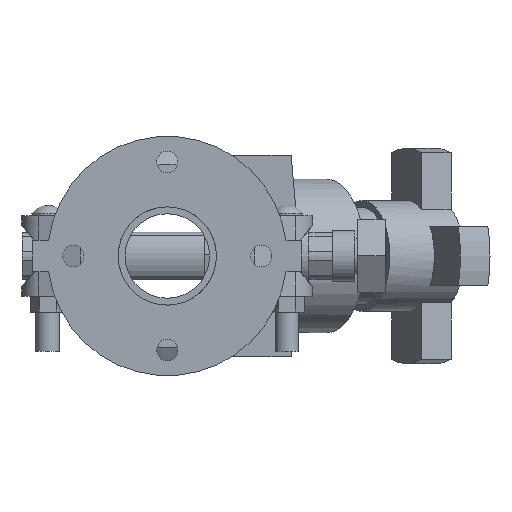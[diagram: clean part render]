
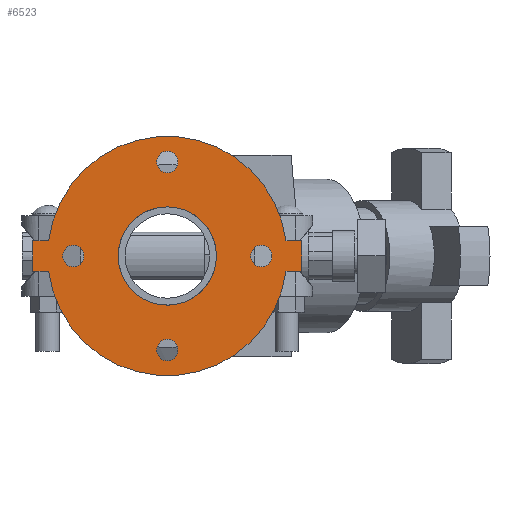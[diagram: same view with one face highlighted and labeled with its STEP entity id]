
A CAD part, front view. The second image highlights one B-rep face of the part: STEP entity #6523.
In plain terms, the highlighted planar face has unit normal (0, -1, 0) as drawn and (0, 0, 1) by its records, which use the part's own axes.
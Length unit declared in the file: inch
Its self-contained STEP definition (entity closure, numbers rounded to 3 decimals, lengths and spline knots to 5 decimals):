
#174=FACE_BOUND('',#824,.T.);
#175=FACE_BOUND('',#825,.T.);
#176=FACE_BOUND('',#826,.T.);
#177=FACE_BOUND('',#827,.T.);
#178=FACE_BOUND('',#828,.T.);
#244=PLANE('',#7095);
#461=FACE_OUTER_BOUND('',#823,.T.);
#823=EDGE_LOOP('',(#4222,#4223,#4224,#4225,#4226,#4227,#4228,#4229));
#824=EDGE_LOOP('',(#4230));
#825=EDGE_LOOP('',(#4231));
#826=EDGE_LOOP('',(#4232));
#827=EDGE_LOOP('',(#4233));
#828=EDGE_LOOP('',(#4234,#4235));
#1245=LINE('',#9953,#1739);
#1246=LINE('',#9956,#1740);
#1249=LINE('',#9961,#1743);
#1250=LINE('',#9964,#1744);
#1252=LINE('',#9967,#1746);
#1253=LINE('',#9969,#1747);
#1739=VECTOR('',#7909,0.3937);
#1740=VECTOR('',#7912,0.3937);
#1743=VECTOR('',#7917,0.3937);
#1744=VECTOR('',#7920,0.3937);
#1746=VECTOR('',#7924,0.3937);
#1747=VECTOR('',#7927,0.3937);
#2217=CIRCLE('',#7066,0.3125);
#2219=CIRCLE('',#7069,0.3125);
#2221=CIRCLE('',#7072,0.3125);
#2223=CIRCLE('',#7075,0.3125);
#2229=CIRCLE('',#7083,3.5);
#2230=CIRCLE('',#7085,1.4375);
#2231=CIRCLE('',#7086,1.4375);
#2232=CIRCLE('',#7088,3.5);
#2589=VERTEX_POINT('',#9888);
#2591=VERTEX_POINT('',#9894);
#2593=VERTEX_POINT('',#9900);
#2595=VERTEX_POINT('',#9906);
#2607=VERTEX_POINT('',#9933);
#2608=VERTEX_POINT('',#9935);
#2609=VERTEX_POINT('',#9939);
#2610=VERTEX_POINT('',#9941);
#2611=VERTEX_POINT('',#9945);
#2612=VERTEX_POINT('',#9947);
#2613=VERTEX_POINT('',#9951);
#2614=VERTEX_POINT('',#9955);
#2615=VERTEX_POINT('',#9959);
#2616=VERTEX_POINT('',#9963);
#3220=EDGE_CURVE('',#2589,#2589,#2217,.T.);
#3223=EDGE_CURVE('',#2591,#2591,#2219,.T.);
#3226=EDGE_CURVE('',#2593,#2593,#2221,.T.);
#3229=EDGE_CURVE('',#2595,#2595,#2223,.T.);
#3244=EDGE_CURVE('',#2607,#2608,#2229,.T.);
#3246=EDGE_CURVE('',#2610,#2609,#2230,.T.);
#3247=EDGE_CURVE('',#2609,#2610,#2231,.T.);
#3249=EDGE_CURVE('',#2612,#2611,#2232,.T.);
#3252=EDGE_CURVE('',#2608,#2613,#1245,.T.);
#3253=EDGE_CURVE('',#2614,#2612,#1246,.T.);
#3256=EDGE_CURVE('',#2611,#2615,#1249,.T.);
#3257=EDGE_CURVE('',#2616,#2607,#1250,.T.);
#3259=EDGE_CURVE('',#2615,#2616,#1252,.T.);
#3260=EDGE_CURVE('',#2613,#2614,#1253,.T.);
#4222=ORIENTED_EDGE('',*,*,#3256,.T.);
#4223=ORIENTED_EDGE('',*,*,#3259,.T.);
#4224=ORIENTED_EDGE('',*,*,#3257,.T.);
#4225=ORIENTED_EDGE('',*,*,#3244,.T.);
#4226=ORIENTED_EDGE('',*,*,#3252,.T.);
#4227=ORIENTED_EDGE('',*,*,#3260,.T.);
#4228=ORIENTED_EDGE('',*,*,#3253,.T.);
#4229=ORIENTED_EDGE('',*,*,#3249,.T.);
#4230=ORIENTED_EDGE('',*,*,#3220,.T.);
#4231=ORIENTED_EDGE('',*,*,#3223,.T.);
#4232=ORIENTED_EDGE('',*,*,#3226,.T.);
#4233=ORIENTED_EDGE('',*,*,#3229,.T.);
#4234=ORIENTED_EDGE('',*,*,#3246,.T.);
#4235=ORIENTED_EDGE('',*,*,#3247,.T.);
#6523=ADVANCED_FACE('',(#461,#174,#175,#176,#177,#178),#244,.T.);
#7066=AXIS2_PLACEMENT_3D('',#9889,#7845,#7846);
#7069=AXIS2_PLACEMENT_3D('',#9895,#7852,#7853);
#7072=AXIS2_PLACEMENT_3D('',#9901,#7859,#7860);
#7075=AXIS2_PLACEMENT_3D('',#9907,#7866,#7867);
#7083=AXIS2_PLACEMENT_3D('',#9937,#7891,#7892);
#7085=AXIS2_PLACEMENT_3D('',#9942,#7896,#7897);
#7086=AXIS2_PLACEMENT_3D('',#9943,#7898,#7899);
#7088=AXIS2_PLACEMENT_3D('',#9948,#7903,#7904);
#7095=AXIS2_PLACEMENT_3D('',#9970,#7928,#7929);
#7845=DIRECTION('center_axis',(0.,0.,-1.));
#7846=DIRECTION('ref_axis',(0.,1.,0.));
#7852=DIRECTION('center_axis',(0.,0.,-1.));
#7853=DIRECTION('ref_axis',(1.,0.,0.));
#7859=DIRECTION('center_axis',(0.,0.,-1.));
#7860=DIRECTION('ref_axis',(0.,-1.,0.));
#7866=DIRECTION('center_axis',(0.,0.,-1.));
#7867=DIRECTION('ref_axis',(-1.,0.,0.));
#7891=DIRECTION('center_axis',(0.,0.,1.));
#7892=DIRECTION('ref_axis',(-1.,0.,0.));
#7896=DIRECTION('center_axis',(0.,0.,-1.));
#7897=DIRECTION('ref_axis',(-1.,0.,0.));
#7898=DIRECTION('center_axis',(0.,0.,-1.));
#7899=DIRECTION('ref_axis',(-1.,0.,0.));
#7903=DIRECTION('center_axis',(0.,0.,1.));
#7904=DIRECTION('ref_axis',(-1.,0.,0.));
#7909=DIRECTION('',(0.,1.,0.));
#7912=DIRECTION('',(0.,-1.,0.));
#7917=DIRECTION('',(0.,-1.,0.));
#7920=DIRECTION('',(0.,1.,0.));
#7924=DIRECTION('',(1.,0.,0.));
#7927=DIRECTION('',(-1.,0.,0.));
#7928=DIRECTION('center_axis',(0.,0.,1.));
#7929=DIRECTION('ref_axis',(1.,0.,0.));
#9888=CARTESIAN_POINT('',(0.,2.4375,0.44));
#9889=CARTESIAN_POINT('Origin',(0.,2.75,0.44));
#9894=CARTESIAN_POINT('',(2.4375,0.,0.44));
#9895=CARTESIAN_POINT('Origin',(2.75,0.,0.44));
#9900=CARTESIAN_POINT('',(0.,-2.4375,0.44));
#9901=CARTESIAN_POINT('Origin',(0.,-2.75,0.44));
#9906=CARTESIAN_POINT('',(-2.4375,0.,0.44));
#9907=CARTESIAN_POINT('Origin',(-2.75,0.,0.44));
#9933=CARTESIAN_POINT('',(0.44,-3.47223,0.44));
#9935=CARTESIAN_POINT('',(0.44,3.47223,0.44));
#9937=CARTESIAN_POINT('Origin',(0.,0.,0.44));
#9939=CARTESIAN_POINT('',(1.4375,0.,0.44));
#9941=CARTESIAN_POINT('',(0.44,1.36851,0.44));
#9942=CARTESIAN_POINT('Origin',(0.,0.,0.44));
#9943=CARTESIAN_POINT('Origin',(0.,0.,0.44));
#9945=CARTESIAN_POINT('',(-0.44,-3.47223,0.44));
#9947=CARTESIAN_POINT('',(-0.44,3.47223,0.44));
#9948=CARTESIAN_POINT('Origin',(0.,0.,0.44));
#9951=CARTESIAN_POINT('',(0.44,3.94,0.44));
#9953=CARTESIAN_POINT('',(0.44,3.94,0.44));
#9955=CARTESIAN_POINT('',(-0.44,3.94,0.44));
#9956=CARTESIAN_POINT('',(-0.44,-3.94,0.44));
#9959=CARTESIAN_POINT('',(-0.44,-3.94,0.44));
#9961=CARTESIAN_POINT('',(-0.44,-3.94,0.44));
#9963=CARTESIAN_POINT('',(0.44,-3.94,0.44));
#9964=CARTESIAN_POINT('',(0.44,3.94,0.44));
#9967=CARTESIAN_POINT('',(0.44,-3.94,0.44));
#9969=CARTESIAN_POINT('',(-0.44,3.94,0.44));
#9970=CARTESIAN_POINT('Origin',(0.,0.,0.44));
